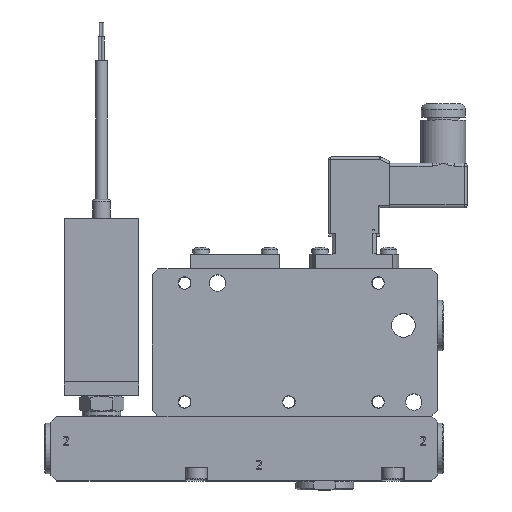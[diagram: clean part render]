
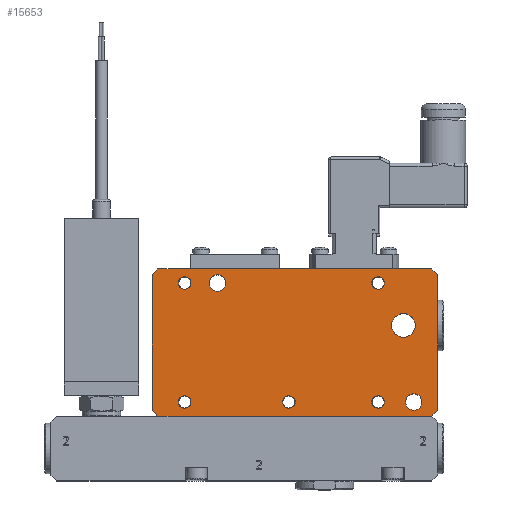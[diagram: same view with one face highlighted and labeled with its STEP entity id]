
A CAD part, top view. The second image highlights one B-rep face of the part: STEP entity #15653.
In plain terms, the highlighted planar face has unit normal (0, 0, 1).
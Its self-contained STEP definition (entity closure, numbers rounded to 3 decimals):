
#722=FACE_BOUND('',#3238,.T.);
#723=FACE_BOUND('',#3239,.T.);
#724=FACE_BOUND('',#3240,.T.);
#725=FACE_BOUND('',#3241,.T.);
#726=FACE_BOUND('',#3242,.T.);
#727=FACE_BOUND('',#3243,.T.);
#728=FACE_BOUND('',#3244,.T.);
#729=FACE_BOUND('',#3245,.T.);
#954=PLANE('',#17046);
#2311=FACE_OUTER_BOUND('',#3237,.T.);
#3237=EDGE_LOOP('',(#11296,#11297,#11298,#11299,#11300,#11301,#11302,#11303));
#3238=EDGE_LOOP('',(#11304));
#3239=EDGE_LOOP('',(#11305));
#3240=EDGE_LOOP('',(#11306));
#3241=EDGE_LOOP('',(#11307));
#3242=EDGE_LOOP('',(#11308));
#3243=EDGE_LOOP('',(#11309));
#3244=EDGE_LOOP('',(#11310));
#3245=EDGE_LOOP('',(#11311));
#4210=CIRCLE('',#16988,4.);
#4231=CIRCLE('',#17026,2.1);
#4232=CIRCLE('',#17028,2.1);
#4233=CIRCLE('',#17030,2.1);
#4234=CIRCLE('',#17032,2.1);
#4235=CIRCLE('',#17034,2.1);
#4236=CIRCLE('',#17036,2.75);
#4237=CIRCLE('',#17038,2.75);
#4683=LINE('',#22220,#5981);
#4783=LINE('',#22635,#6081);
#4786=LINE('',#22640,#6084);
#4788=LINE('',#22644,#6086);
#4790=LINE('',#22648,#6088);
#4792=LINE('',#22658,#6090);
#4793=LINE('',#22660,#6091);
#4794=LINE('',#22661,#6092);
#5981=VECTOR('',#18256,10.);
#6081=VECTOR('',#18556,10.);
#6084=VECTOR('',#18561,10.);
#6086=VECTOR('',#18565,10.);
#6088=VECTOR('',#18569,10.);
#6090=VECTOR('',#18579,10.);
#6091=VECTOR('',#18580,10.);
#6092=VECTOR('',#18581,10.);
#7298=VERTEX_POINT('',#22217);
#7299=VERTEX_POINT('',#22219);
#7383=VERTEX_POINT('',#22475);
#7414=VERTEX_POINT('',#22605);
#7415=VERTEX_POINT('',#22609);
#7416=VERTEX_POINT('',#22613);
#7417=VERTEX_POINT('',#22617);
#7418=VERTEX_POINT('',#22621);
#7419=VERTEX_POINT('',#22625);
#7420=VERTEX_POINT('',#22629);
#7421=VERTEX_POINT('',#22633);
#7422=VERTEX_POINT('',#22638);
#7423=VERTEX_POINT('',#22643);
#7424=VERTEX_POINT('',#22647);
#7428=VERTEX_POINT('',#22657);
#7429=VERTEX_POINT('',#22659);
#8766=EDGE_CURVE('',#7299,#7298,#4683,.T.);
#8868=EDGE_CURVE('',#7383,#7383,#4210,.T.);
#8915=EDGE_CURVE('',#7414,#7414,#4231,.T.);
#8917=EDGE_CURVE('',#7415,#7415,#4232,.T.);
#8919=EDGE_CURVE('',#7416,#7416,#4233,.T.);
#8921=EDGE_CURVE('',#7417,#7417,#4234,.T.);
#8923=EDGE_CURVE('',#7418,#7418,#4235,.T.);
#8925=EDGE_CURVE('',#7419,#7419,#4236,.T.);
#8927=EDGE_CURVE('',#7420,#7420,#4237,.T.);
#8930=EDGE_CURVE('',#7421,#7298,#4783,.T.);
#8933=EDGE_CURVE('',#7421,#7422,#4786,.T.);
#8935=EDGE_CURVE('',#7299,#7423,#4788,.T.);
#8937=EDGE_CURVE('',#7424,#7423,#4790,.T.);
#8942=EDGE_CURVE('',#7428,#7422,#4792,.T.);
#8943=EDGE_CURVE('',#7428,#7429,#4793,.T.);
#8944=EDGE_CURVE('',#7424,#7429,#4794,.T.);
#11296=ORIENTED_EDGE('',*,*,#8930,.F.);
#11297=ORIENTED_EDGE('',*,*,#8933,.T.);
#11298=ORIENTED_EDGE('',*,*,#8942,.F.);
#11299=ORIENTED_EDGE('',*,*,#8943,.T.);
#11300=ORIENTED_EDGE('',*,*,#8944,.F.);
#11301=ORIENTED_EDGE('',*,*,#8937,.T.);
#11302=ORIENTED_EDGE('',*,*,#8935,.F.);
#11303=ORIENTED_EDGE('',*,*,#8766,.T.);
#11304=ORIENTED_EDGE('',*,*,#8915,.T.);
#11305=ORIENTED_EDGE('',*,*,#8917,.T.);
#11306=ORIENTED_EDGE('',*,*,#8919,.T.);
#11307=ORIENTED_EDGE('',*,*,#8921,.T.);
#11308=ORIENTED_EDGE('',*,*,#8923,.T.);
#11309=ORIENTED_EDGE('',*,*,#8925,.T.);
#11310=ORIENTED_EDGE('',*,*,#8927,.T.);
#11311=ORIENTED_EDGE('',*,*,#8868,.T.);
#15653=ADVANCED_FACE('',(#2311,#722,#723,#724,#725,#726,#727,#728,#729),
#954,.T.);
#16988=AXIS2_PLACEMENT_3D('',#22476,#18421,#18422);
#17026=AXIS2_PLACEMENT_3D('',#22606,#18520,#18521);
#17028=AXIS2_PLACEMENT_3D('',#22610,#18525,#18526);
#17030=AXIS2_PLACEMENT_3D('',#22614,#18530,#18531);
#17032=AXIS2_PLACEMENT_3D('',#22618,#18535,#18536);
#17034=AXIS2_PLACEMENT_3D('',#22622,#18540,#18541);
#17036=AXIS2_PLACEMENT_3D('',#22626,#18545,#18546);
#17038=AXIS2_PLACEMENT_3D('',#22630,#18550,#18551);
#17046=AXIS2_PLACEMENT_3D('',#22656,#18577,#18578);
#18256=DIRECTION('',(1.,0.,0.));
#18421=DIRECTION('center_axis',(0.,0.,
-1.));
#18422=DIRECTION('ref_axis',(1.,0.,0.));
#18520=DIRECTION('center_axis',(0.,0.,
-1.));
#18521=DIRECTION('ref_axis',(1.,0.,0.));
#18525=DIRECTION('center_axis',(0.,0.,
-1.));
#18526=DIRECTION('ref_axis',(1.,0.,0.));
#18530=DIRECTION('center_axis',(0.,0.,
-1.));
#18531=DIRECTION('ref_axis',(1.,0.,0.));
#18535=DIRECTION('center_axis',(0.,0.,
-1.));
#18536=DIRECTION('ref_axis',(1.,0.,0.));
#18540=DIRECTION('center_axis',(0.,0.,
-1.));
#18541=DIRECTION('ref_axis',(1.,0.,0.));
#18545=DIRECTION('center_axis',(0.,0.,
-1.));
#18546=DIRECTION('ref_axis',(1.,0.,0.));
#18550=DIRECTION('center_axis',(0.,0.,
-1.));
#18551=DIRECTION('ref_axis',(1.,0.,0.));
#18556=DIRECTION('',(-0.707,-0.707,0.));
#18561=DIRECTION('',(0.,1.,0.));
#18565=DIRECTION('',(-0.707,0.707,0.));
#18569=DIRECTION('',(0.,-1.,0.));
#18577=DIRECTION('center_axis',(0.,0.,
1.));
#18578=DIRECTION('ref_axis',(1.,0.,0.));
#18579=DIRECTION('',(0.707,-0.707,0.));
#18580=DIRECTION('',(-1.,0.,0.));
#18581=DIRECTION('',(0.707,0.707,0.));
#22217=CARTESIAN_POINT('',(76.762,-2.451,9.589));
#22219=CARTESIAN_POINT('',(-15.238,-2.451,9.589));
#22220=CARTESIAN_POINT('',(78.762,-2.451,9.589));
#22475=CARTESIAN_POINT('',(63.262,28.049,9.589));
#22476=CARTESIAN_POINT('Origin',(67.262,28.049,9.589));
#22605=CARTESIAN_POINT('',(-8.338,2.299,9.589));
#22606=CARTESIAN_POINT('Origin',(-6.238,2.299,9.589));
#22609=CARTESIAN_POINT('',(56.662,42.299,9.589));
#22610=CARTESIAN_POINT('Origin',(58.762,42.299,9.589));
#22613=CARTESIAN_POINT('',(56.662,2.299,9.589));
#22614=CARTESIAN_POINT('Origin',(58.762,2.299,9.589));
#22617=CARTESIAN_POINT('',(-8.338,42.299,9.589));
#22618=CARTESIAN_POINT('Origin',(-6.238,42.299,9.589));
#22621=CARTESIAN_POINT('',(26.662,2.299,9.589));
#22622=CARTESIAN_POINT('Origin',(28.762,2.299,9.589));
#22625=CARTESIAN_POINT('',(68.012,2.299,9.589));
#22626=CARTESIAN_POINT('Origin',(70.762,2.299,9.589));
#22629=CARTESIAN_POINT('',(2.012,42.299,9.589));
#22630=CARTESIAN_POINT('Origin',(4.762,42.299,9.589));
#22633=CARTESIAN_POINT('',(78.762,-0.451,9.589));
#22635=CARTESIAN_POINT('',(71.949,-7.264,9.589));
#22638=CARTESIAN_POINT('',(78.762,45.049,9.589));
#22640=CARTESIAN_POINT('',(78.762,47.049,9.589));
#22643=CARTESIAN_POINT('',(-17.238,-0.451,9.589));
#22644=CARTESIAN_POINT('',(-10.426,-7.264,9.589));
#22647=CARTESIAN_POINT('',(-17.238,45.049,9.589));
#22648=CARTESIAN_POINT('',(-17.238,-2.451,9.589));
#22656=CARTESIAN_POINT('Origin',(30.762,22.299,9.589));
#22657=CARTESIAN_POINT('',(76.762,47.049,9.589));
#22658=CARTESIAN_POINT('',(71.949,51.861,9.589));
#22659=CARTESIAN_POINT('',(-15.238,47.049,9.589));
#22660=CARTESIAN_POINT('',(-17.238,47.049,9.589));
#22661=CARTESIAN_POINT('',(-10.426,51.861,9.589));
